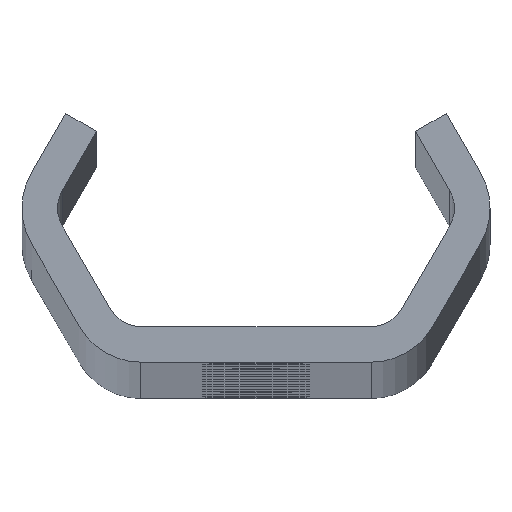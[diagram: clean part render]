
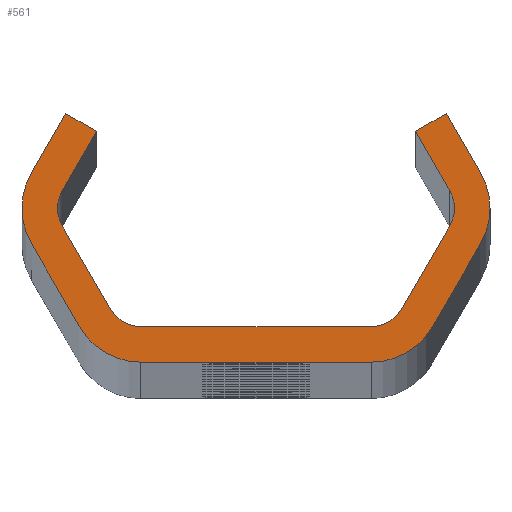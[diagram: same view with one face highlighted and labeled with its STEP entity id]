
A CAD part, top view. The second image highlights one B-rep face of the part: STEP entity #561.
In plain terms, the highlighted planar face has unit normal (0, 0, 1).
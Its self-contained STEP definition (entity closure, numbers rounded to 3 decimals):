
#561=ADVANCED_FACE('NONE',(#1545),#1546,.F.);
#1545=FACE_OUTER_BOUND('',#4963,.T.);
#1546=PLANE('',#4964);
#4963=EDGE_LOOP('',(#10037,#10038,#10039,#10040,#10041,#10042,#10043,#10044,#10045,#10046,#10047,#10048,#10049,#10050,#10051,#10052,#10053,#10054,#10055,#10056,#10057,#10058,#10059,#10060));
#4964=AXIS2_PLACEMENT_3D('',#10061,#10062,#10063);
#10037=ORIENTED_EDGE('',*,*,#13413,.T.);
#10038=ORIENTED_EDGE('',*,*,#13446,.T.);
#10039=ORIENTED_EDGE('',*,*,#13123,.T.);
#10040=ORIENTED_EDGE('',*,*,#13415,.T.);
#10041=ORIENTED_EDGE('',*,*,#13447,.T.);
#10042=ORIENTED_EDGE('',*,*,#13419,.T.);
#10043=ORIENTED_EDGE('',*,*,#13448,.T.);
#10044=ORIENTED_EDGE('',*,*,#13130,.T.);
#10045=ORIENTED_EDGE('',*,*,#13449,.T.);
#10046=ORIENTED_EDGE('',*,*,#12886,.T.);
#10047=ORIENTED_EDGE('',*,*,#13133,.T.);
#10048=ORIENTED_EDGE('',*,*,#13139,.T.);
#10049=ORIENTED_EDGE('',*,*,#13142,.T.);
#10050=ORIENTED_EDGE('',*,*,#13120,.T.);
#10051=ORIENTED_EDGE('',*,*,#13450,.T.);
#10052=ORIENTED_EDGE('',*,*,#13144,.T.);
#10053=ORIENTED_EDGE('',*,*,#13451,.T.);
#10054=ORIENTED_EDGE('',*,*,#13151,.T.);
#10055=ORIENTED_EDGE('',*,*,#13452,.T.);
#10056=ORIENTED_EDGE('',*,*,#13400,.T.);
#10057=ORIENTED_EDGE('',*,*,#13453,.T.);
#10058=ORIENTED_EDGE('',*,*,#12881,.T.);
#10059=ORIENTED_EDGE('',*,*,#13403,.T.);
#10060=ORIENTED_EDGE('',*,*,#13409,.T.);
#10061=CARTESIAN_POINT('',(0.0,0.0,1760.0));
#10062=DIRECTION('',(0.0,0.0,-1.0));
#10063=DIRECTION('',(0.0,-1.0,0.0));
#12881=EDGE_CURVE('NONE',#14360,#14364,#14366,.T.);
#12886=EDGE_CURVE('NONE',#14369,#14373,#14375,.T.);
#13120=EDGE_CURVE('NONE',#14796,#14794,#14797,.T.);
#13123=EDGE_CURVE('NONE',#14800,#14801,#14802,.T.);
#13130=EDGE_CURVE('NONE',#14814,#14812,#14815,.T.);
#13133=EDGE_CURVE('NONE',#14373,#14818,#14819,.T.);
#13139=EDGE_CURVE('NONE',#14818,#14826,#14828,.T.);
#13142=EDGE_CURVE('NONE',#14826,#14796,#14831,.T.);
#13144=EDGE_CURVE('NONE',#14833,#14834,#14835,.T.);
#13151=EDGE_CURVE('NONE',#14847,#14845,#14848,.T.);
#13400=EDGE_CURVE('NONE',#15310,#15308,#15311,.T.);
#13403=EDGE_CURVE('NONE',#14364,#15314,#15315,.T.);
#13409=EDGE_CURVE('NONE',#15314,#15322,#15324,.T.);
#13413=EDGE_CURVE('NONE',#15322,#15328,#15330,.T.);
#13415=EDGE_CURVE('NONE',#14801,#15332,#15333,.T.);
#13419=EDGE_CURVE('NONE',#15338,#15339,#15340,.T.);
#13446=EDGE_CURVE('NONE',#15328,#14800,#15369,.T.);
#13447=EDGE_CURVE('NONE',#15332,#15338,#15370,.T.);
#13448=EDGE_CURVE('NONE',#15339,#14814,#15371,.T.);
#13449=EDGE_CURVE('NONE',#14812,#14369,#15372,.T.);
#13450=EDGE_CURVE('NONE',#14794,#14833,#15373,.T.);
#13451=EDGE_CURVE('NONE',#14834,#14847,#15374,.T.);
#13452=EDGE_CURVE('NONE',#14845,#15310,#15375,.T.);
#13453=EDGE_CURVE('NONE',#15308,#14360,#15376,.T.);
#14360=VERTEX_POINT('',#16553);
#14364=VERTEX_POINT('NONE',#16558);
#14366=CIRCLE('',#16561,3.0);
#14369=VERTEX_POINT('',#16564);
#14373=VERTEX_POINT('NONE',#16569);
#14375=CIRCLE('',#16572,6.0);
#14794=VERTEX_POINT('NONE',#19135);
#14796=VERTEX_POINT('NONE',#19138);
#14797=CIRCLE('',#19139,3.0);
#14800=VERTEX_POINT('NONE',#19143);
#14801=VERTEX_POINT('NONE',#19144);
#14802=CIRCLE('',#19145,6.0);
#14812=VERTEX_POINT('NONE',#19158);
#14814=VERTEX_POINT('NONE',#19161);
#14815=LINE('',#19162,#19163);
#14818=VERTEX_POINT('NONE',#19167);
#14819=LINE('',#19168,#19169);
#14826=VERTEX_POINT('NONE',#19179);
#14828=LINE('',#19182,#19183);
#14831=LINE('',#19187,#19188);
#14833=VERTEX_POINT('NONE',#19190);
#14834=VERTEX_POINT('NONE',#19191);
#14835=LINE('',#19192,#19193);
#14845=VERTEX_POINT('NONE',#19207);
#14847=VERTEX_POINT('NONE',#19210);
#14848=LINE('',#19211,#19212);
#15308=VERTEX_POINT('NONE',#20874);
#15310=VERTEX_POINT('NONE',#20877);
#15311=LINE('',#20878,#20879);
#15314=VERTEX_POINT('NONE',#20883);
#15315=LINE('',#20884,#20885);
#15322=VERTEX_POINT('NONE',#20895);
#15324=LINE('',#20898,#20899);
#15328=VERTEX_POINT('NONE',#20904);
#15330=LINE('',#20907,#20908);
#15332=VERTEX_POINT('NONE',#20910);
#15333=LINE('',#20911,#20912);
#15338=VERTEX_POINT('NONE',#20919);
#15339=VERTEX_POINT('NONE',#20920);
#15340=LINE('',#20921,#20922);
#15369=CIRCLE('',#20954,6.0);
#15370=CIRCLE('',#20955,6.0);
#15371=CIRCLE('',#20956,6.0);
#15372=CIRCLE('',#20957,6.0);
#15373=CIRCLE('',#20958,3.0);
#15374=CIRCLE('',#20959,3.0);
#15375=CIRCLE('',#20960,3.0);
#15376=CIRCLE('',#20961,3.0);
#16553=CARTESIAN_POINT('',(-16.764,0.,1760.0));
#16558=CARTESIAN_POINT('',(-16.362,1.5,1760.0));
#16561=AXIS2_PLACEMENT_3D('',#24841,#24842,#24843);
#16564=CARTESIAN_POINT('',(19.764,0.,1760.0));
#16569=CARTESIAN_POINT('',(18.96,3.,1760.0));
#16572=AXIS2_PLACEMENT_3D('',#24849,#24850,#24851);
#19135=CARTESIAN_POINT('',(16.764,0.,1760.0));
#19138=CARTESIAN_POINT('',(16.362,1.5,1760.0));
#19139=AXIS2_PLACEMENT_3D('',#25080,#25081,#25082);
#19143=CARTESIAN_POINT('',(-19.764,0.,1760.0));
#19144=CARTESIAN_POINT('',(-18.96,-3.,1760.0));
#19145=AXIS2_PLACEMENT_3D('',#25084,#25085,#25086);
#19158=CARTESIAN_POINT('',(18.96,-3.,1760.0));
#19161=CARTESIAN_POINT('',(14.919,-10.,1760.0));
#19162=CARTESIAN_POINT('',(20.692,0.,1760.0));
#19163=VECTOR('',#25094,1000.0);
#19167=CARTESIAN_POINT('',(16.074,8.,1760.0));
#19168=CARTESIAN_POINT('',(16.074,8.,1760.0));
#19169=VECTOR('',#25096,1000.0);
#19179=CARTESIAN_POINT('',(13.475,6.5,1760.0));
#19182=CARTESIAN_POINT('',(13.475,6.5,1760.0));
#19183=VECTOR('',#25101,1000.0);
#19187=CARTESIAN_POINT('',(17.228,0.,1760.0));
#19188=VECTOR('',#25103,1000.0);
#19190=CARTESIAN_POINT('',(16.362,-1.5,1760.0));
#19191=CARTESIAN_POINT('',(12.321,-8.5,1760.0));
#19192=CARTESIAN_POINT('',(11.455,-10.0,1760.0));
#19193=VECTOR('',#25104,1000.0);
#19207=CARTESIAN_POINT('',(-9.723,-10.0,1760.0));
#19210=CARTESIAN_POINT('',(9.723,-10.0,1760.0));
#19211=CARTESIAN_POINT('',(-11.455,-10.0,1760.0));
#19212=VECTOR('',#25110,1000.0);
#20874=CARTESIAN_POINT('',(-16.362,-1.5,1760.0));
#20877=CARTESIAN_POINT('',(-12.321,-8.5,1760.0));
#20878=CARTESIAN_POINT('',(-17.228,0.,1760.0));
#20879=VECTOR('',#25378,1000.0);
#20883=CARTESIAN_POINT('',(-13.475,6.5,1760.0));
#20884=CARTESIAN_POINT('',(-13.475,6.5,1760.0));
#20885=VECTOR('',#25380,1000.0);
#20895=CARTESIAN_POINT('',(-16.074,8.,1760.0));
#20898=CARTESIAN_POINT('',(-13.475,6.5,1760.0));
#20899=VECTOR('',#25385,1000.0);
#20904=CARTESIAN_POINT('',(-18.96,3.,1760.0));
#20907=CARTESIAN_POINT('',(-16.074,8.,1760.0));
#20908=VECTOR('',#25388,1000.0);
#20910=CARTESIAN_POINT('',(-14.919,-10.,1760.0));
#20911=CARTESIAN_POINT('',(-20.692,0.,1760.0));
#20912=VECTOR('',#25389,1000.0);
#20919=CARTESIAN_POINT('',(-9.723,-13.0,1760.0));
#20920=CARTESIAN_POINT('',(9.723,-13.0,1760.0));
#20921=CARTESIAN_POINT('',(-13.187,-13.0,1760.0));
#20922=VECTOR('',#25392,1000.0);
#20954=AXIS2_PLACEMENT_3D('',#25462,#25463,#25464);
#20955=AXIS2_PLACEMENT_3D('',#25465,#25466,#25467);
#20956=AXIS2_PLACEMENT_3D('',#25468,#25469,#25470);
#20957=AXIS2_PLACEMENT_3D('',#25471,#25472,#25473);
#20958=AXIS2_PLACEMENT_3D('',#25474,#25475,#25476);
#20959=AXIS2_PLACEMENT_3D('',#25477,#25478,#25479);
#20960=AXIS2_PLACEMENT_3D('',#25480,#25481,#25482);
#20961=AXIS2_PLACEMENT_3D('',#25483,#25484,#25485);
#24841=CARTESIAN_POINT('',(-13.764,0.,1760.0));
#24842=DIRECTION('',(0.0,0.0,-1.0));
#24843=DIRECTION('',(-1.0,0.0,0.0));
#24849=CARTESIAN_POINT('',(13.764,0.,1760.0));
#24850=DIRECTION('',(0.0,0.0,1.0));
#24851=DIRECTION('',(-1.0,0.0,0.0));
#25080=CARTESIAN_POINT('',(13.764,0.,1760.0));
#25081=DIRECTION('',(0.0,0.0,-1.0));
#25082=DIRECTION('',(-1.0,0.0,0.0));
#25084=CARTESIAN_POINT('',(-13.764,0.,1760.0));
#25085=DIRECTION('',(0.0,0.0,1.0));
#25086=DIRECTION('',(-1.0,0.0,0.0));
#25094=DIRECTION('',(0.5,0.866,-0.0));
#25096=DIRECTION('',(-0.5,0.866,-0.0));
#25101=DIRECTION('',(-0.866,-0.5,-0.0));
#25103=DIRECTION('',(0.5,-0.866,-0.0));
#25104=DIRECTION('',(-0.5,-0.866,-0.0));
#25110=DIRECTION('',(-1.0,0.,-0.0));
#25378=DIRECTION('',(-0.5,0.866,-0.0));
#25380=DIRECTION('',(0.5,0.866,-0.0));
#25385=DIRECTION('',(-0.866,0.5,0.0));
#25388=DIRECTION('',(-0.5,-0.866,0.0));
#25389=DIRECTION('',(0.5,-0.866,0.0));
#25392=DIRECTION('',(1.0,0.0,0.0));
#25462=CARTESIAN_POINT('',(-13.764,0.,1760.0));
#25463=DIRECTION('',(0.0,0.0,1.0));
#25464=DIRECTION('',(-1.0,0.,0.0));
#25465=CARTESIAN_POINT('',(-9.723,-7.0,1760.0));
#25466=DIRECTION('',(0.0,0.0,1.0));
#25467=DIRECTION('',(-1.0,0.0,0.0));
#25468=CARTESIAN_POINT('',(9.723,-7.0,1760.0));
#25469=DIRECTION('',(0.0,0.0,1.0));
#25470=DIRECTION('',(-1.0,0.,0.0));
#25471=CARTESIAN_POINT('',(13.764,0.,1760.0));
#25472=DIRECTION('',(0.0,0.0,1.0));
#25473=DIRECTION('',(-1.0,0.0,0.0));
#25474=CARTESIAN_POINT('',(13.764,0.,1760.0));
#25475=DIRECTION('',(0.0,0.0,-1.0));
#25476=DIRECTION('',(-1.0,0.0,0.0));
#25477=CARTESIAN_POINT('',(9.723,-7.0,1760.0));
#25478=DIRECTION('',(0.0,0.0,-1.0));
#25479=DIRECTION('',(-1.0,0.0,0.0));
#25480=CARTESIAN_POINT('',(-9.723,-7.0,1760.0));
#25481=DIRECTION('',(0.0,0.0,-1.0));
#25482=DIRECTION('',(-1.0,0.0,0.0));
#25483=CARTESIAN_POINT('',(-13.764,0.,1760.0));
#25484=DIRECTION('',(0.0,0.0,-1.0));
#25485=DIRECTION('',(-1.0,0.0,0.0));
